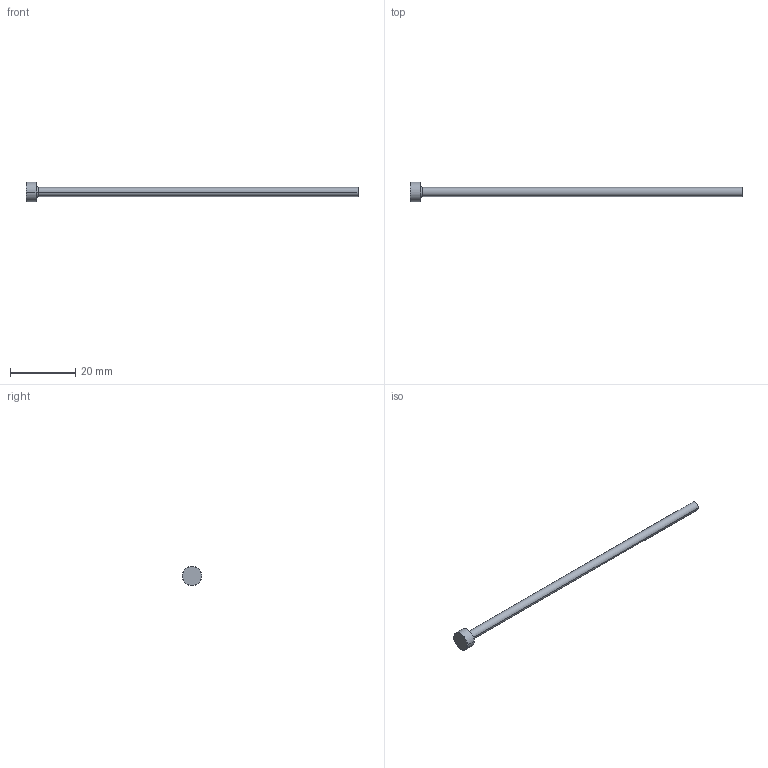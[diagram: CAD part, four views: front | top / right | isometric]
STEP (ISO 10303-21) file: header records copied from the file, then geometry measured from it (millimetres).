
FILE_DESCRIPTION (( 'STEP AP214' ), '1' );
FILE_NAME ('P8-4.STEP', '2020-03-11T17:14:53', ( '' ), ( '' ), 'SwSTEP 2.0', 'SolidWorks 2018', '' );
FILE_SCHEMA (( 'AUTOMOTIVE_DESIGN' ));
Length unit declared in the file: inch
Products named in the file (1): P8-4
Bounding box: 101.6 x 5.95 x 5.95 mm (x, y, z)
Volume: 682.8 mm3; surface area: 966.9 mm2
Topology: 1 solids, 1 shells, 13 faces, 24 edges, 14 vertices
Faces by surface type: cone 4, cylinder 4, plane 3, torus 2
Entity records: 366 total; most frequent: DIRECTION 68, CARTESIAN_POINT 52, ORIENTED_EDGE 48, AXIS2_PLACEMENT_3D 30, EDGE_CURVE 24, CIRCLE 16, VERTEX_POINT 14, EDGE_LOOP 14
